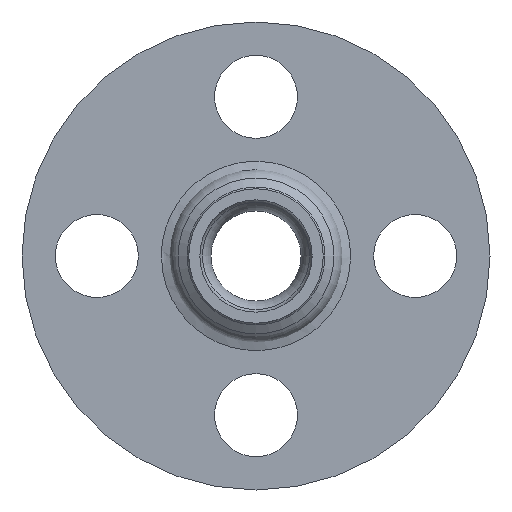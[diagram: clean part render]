
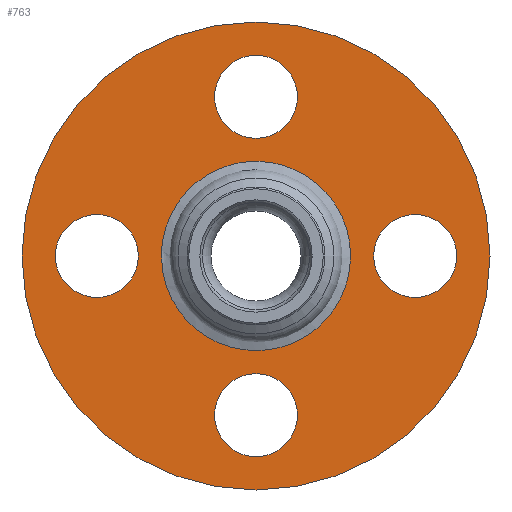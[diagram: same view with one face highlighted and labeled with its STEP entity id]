
A CAD part, left-side view. The second image highlights one B-rep face of the part: STEP entity #763.
In plain terms, the highlighted planar face has unit normal (-1, 0, 0).
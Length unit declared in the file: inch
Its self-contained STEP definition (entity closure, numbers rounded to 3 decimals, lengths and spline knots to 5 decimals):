
#60=FACE_BOUND('',#121,.T.);
#61=FACE_BOUND('',#122,.T.);
#62=FACE_BOUND('',#123,.T.);
#63=FACE_BOUND('',#124,.T.);
#64=FACE_BOUND('',#125,.T.);
#73=PLANE('',#828);
#80=B_SPLINE_CURVE_WITH_KNOTS('',3,(#1395,#1396,#1397,#1398,#1399,#1400,
#1401,#1402,#1403,#1404,#1405,#1406,#1407,#1408,#1409,#1410,#1411,#1412),
 .UNSPECIFIED.,.T.,.F.,(4,1,1,1,1,1,1,1,1,1,1,1,1,1,1,4),(-5.61073,
-4.8092,-4.00767,-3.20613,-2.4046,
-1.87024,-0.80153,0.26718,0.80153,
1.33589,2.4046,2.93895,4.00767,4.8092,
5.20996,5.61073),.UNSPECIFIED.);
#87=FACE_OUTER_BOUND('',#120,.T.);
#120=EDGE_LOOP('',(#510,#511));
#121=EDGE_LOOP('',(#512));
#122=EDGE_LOOP('',(#513));
#123=EDGE_LOOP('',(#514));
#124=EDGE_LOOP('',(#515));
#125=EDGE_LOOP('',(#516));
#195=CIRCLE('',#814,0.31);
#198=CIRCLE('',#818,0.31);
#201=CIRCLE('',#822,0.31);
#204=CIRCLE('',#826,0.31);
#206=CIRCLE('',#829,1.75);
#207=CIRCLE('',#830,1.75);
#289=VERTEX_POINT('',#1252);
#292=VERTEX_POINT('',#1260);
#295=VERTEX_POINT('',#1268);
#298=VERTEX_POINT('',#1276);
#299=VERTEX_POINT('',#1369);
#302=VERTEX_POINT('',#1414);
#303=VERTEX_POINT('',#1415);
#375=EDGE_CURVE('',#289,#289,#195,.T.);
#379=EDGE_CURVE('',#292,#292,#198,.T.);
#383=EDGE_CURVE('',#295,#295,#201,.T.);
#387=EDGE_CURVE('',#298,#298,#204,.T.);
#391=EDGE_CURVE('',#299,#299,#80,.T.);
#392=EDGE_CURVE('',#302,#303,#206,.T.);
#393=EDGE_CURVE('',#303,#302,#207,.T.);
#510=ORIENTED_EDGE('',*,*,#392,.F.);
#511=ORIENTED_EDGE('',*,*,#393,.F.);
#512=ORIENTED_EDGE('',*,*,#375,.T.);
#513=ORIENTED_EDGE('',*,*,#379,.T.);
#514=ORIENTED_EDGE('',*,*,#383,.T.);
#515=ORIENTED_EDGE('',*,*,#387,.T.);
#516=ORIENTED_EDGE('',*,*,#391,.F.);
#763=ADVANCED_FACE('',(#87,#60,#61,#62,#63,#64),#73,.T.);
#814=AXIS2_PLACEMENT_3D('',#1254,#959,#960);
#818=AXIS2_PLACEMENT_3D('',#1262,#968,#969);
#822=AXIS2_PLACEMENT_3D('',#1270,#977,#978);
#826=AXIS2_PLACEMENT_3D('',#1278,#986,#987);
#828=AXIS2_PLACEMENT_3D('',#1413,#990,#991);
#829=AXIS2_PLACEMENT_3D('',#1416,#992,#993);
#830=AXIS2_PLACEMENT_3D('',#1417,#994,#995);
#959=DIRECTION('center_axis',(1.,0.,0.));
#960=DIRECTION('ref_axis',(0.,-1.,0.));
#968=DIRECTION('center_axis',(1.,0.,0.));
#969=DIRECTION('ref_axis',(0.,0.,1.));
#977=DIRECTION('center_axis',(1.,0.,0.));
#978=DIRECTION('ref_axis',(0.,1.,0.));
#986=DIRECTION('center_axis',(1.,0.,0.));
#987=DIRECTION('ref_axis',(0.,0.,-1.));
#990=DIRECTION('center_axis',(-1.,0.,0.));
#991=DIRECTION('ref_axis',(0.,0.,1.));
#992=DIRECTION('center_axis',(1.,0.,0.));
#993=DIRECTION('ref_axis',(0.,1.,0.));
#994=DIRECTION('center_axis',(1.,0.,0.));
#995=DIRECTION('ref_axis',(0.,1.,0.));
#1252=CARTESIAN_POINT('',(1.245,0.31,-1.19));
#1254=CARTESIAN_POINT('Origin',(1.245,0.,-1.19));
#1260=CARTESIAN_POINT('',(1.245,-1.19,-0.31));
#1262=CARTESIAN_POINT('Origin',(1.245,-1.19,0.));
#1268=CARTESIAN_POINT('',(1.245,-0.31,1.19));
#1270=CARTESIAN_POINT('Origin',(1.245,0.,1.19));
#1276=CARTESIAN_POINT('',(1.245,1.19,0.31));
#1278=CARTESIAN_POINT('Origin',(1.245,1.19,0.));
#1369=CARTESIAN_POINT('',(1.245,0.70738,0.00057));
#1395=CARTESIAN_POINT('Ctrl Pts',(1.245,0.70738,0.00057));
#1396=CARTESIAN_POINT('Ctrl Pts',(1.245,0.70746,-0.10486));
#1397=CARTESIAN_POINT('Ctrl Pts',(1.245,0.65949,-0.31705));
#1398=CARTESIAN_POINT('Ctrl Pts',(1.245,0.45646,-0.57157));
#1399=CARTESIAN_POINT('Ctrl Pts',(1.245,0.16318,-0.71327));
#1400=CARTESIAN_POINT('Ctrl Pts',(1.245,-0.12628,-0.71301));
#1401=CARTESIAN_POINT('Ctrl Pts',(1.245,-0.42527,-0.59615));
#1402=CARTESIAN_POINT('Ctrl Pts',(1.245,-0.6771,-0.32616));
#1403=CARTESIAN_POINT('Ctrl Pts',(1.245,-0.73112,0.03929));
#1404=CARTESIAN_POINT('Ctrl Pts',(1.245,-0.64739,0.30987));
#1405=CARTESIAN_POINT('Ctrl Pts',(1.245,-0.48728,0.54721));
#1406=CARTESIAN_POINT('Ctrl Pts',(1.245,-0.23228,0.69446));
#1407=CARTESIAN_POINT('Ctrl Pts',(1.245,0.12408,0.7218));
#1408=CARTESIAN_POINT('Ctrl Pts',(1.245,0.43285,0.60152));
#1409=CARTESIAN_POINT('Ctrl Pts',(1.245,0.62493,0.36004));
#1410=CARTESIAN_POINT('Ctrl Pts',(1.245,0.69518,0.15984));
#1411=CARTESIAN_POINT('Ctrl Pts',(1.245,0.70734,0.05329));
#1412=CARTESIAN_POINT('Ctrl Pts',(1.245,0.70738,0.00057));
#1413=CARTESIAN_POINT('Origin',(1.245,1.1725,0.));
#1414=CARTESIAN_POINT('',(1.245,1.75,0.));
#1415=CARTESIAN_POINT('',(1.245,-1.75,0.));
#1416=CARTESIAN_POINT('Origin',(1.245,0.,0.));
#1417=CARTESIAN_POINT('Origin',(1.245,0.,0.));
